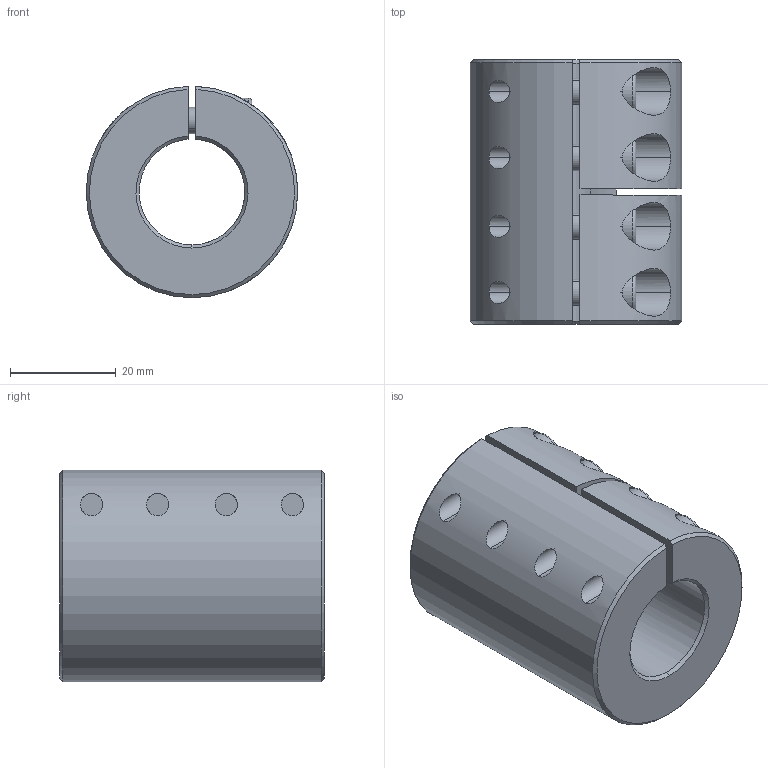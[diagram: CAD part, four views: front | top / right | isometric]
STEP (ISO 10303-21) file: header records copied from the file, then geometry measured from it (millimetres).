
FILE_DESCRIPTION (( 'STEP AP214' ), '1' );
FILE_NAME ('LL-B-D40L50-20-20½¨Ä£.STEP', '2022-07-22T00:29:13', ( '' ), ( '' ), 'SwSTEP 2.0', 'SolidWorks 2022', '' );
FILE_SCHEMA (( 'AUTOMOTIVE_DESIGN' ));
Length unit declared in the file: millimetre
Products named in the file (1): LL-B-D40L50-20-20膘耀
Bounding box: 40 x 50 x 39.99 mm (x, y, z)
Volume: 44393.8 mm3; surface area: 15398.4 mm2
Topology: 1 solids, 1 shells, 173 faces, 436 edges, 273 vertices
Faces by surface type: plane 83, cylinder 68, cone 14, torus 8
Entity records: 5707 total; most frequent: CARTESIAN_POINT 1459, DIRECTION 923, ORIENTED_EDGE 856, EDGE_CURVE 428, AXIS2_PLACEMENT_3D 361, VERTEX_POINT 273, EDGE_LOOP 205, LINE 201
